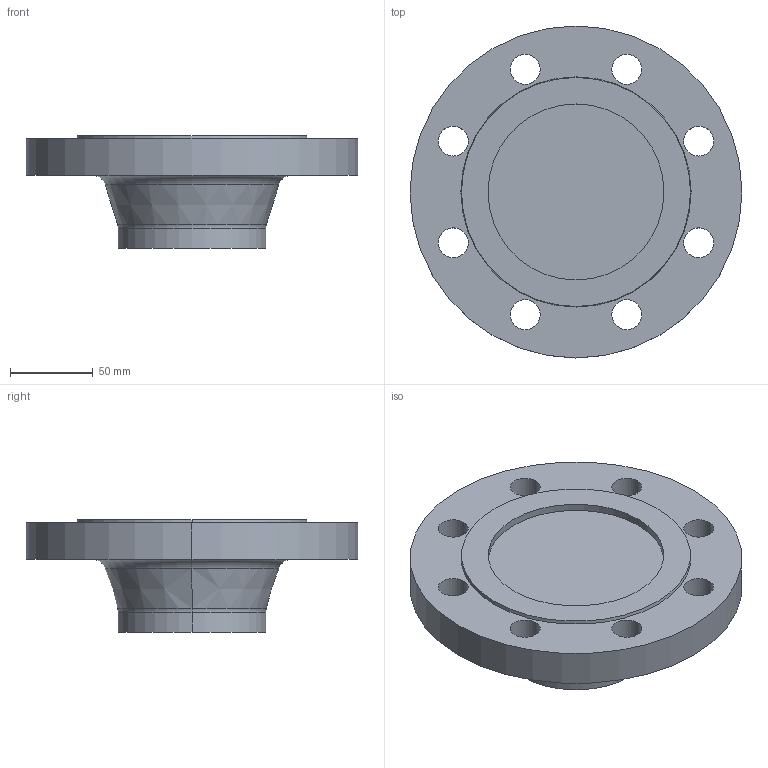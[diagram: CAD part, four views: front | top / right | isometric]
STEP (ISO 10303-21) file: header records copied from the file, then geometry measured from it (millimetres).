
FILE_DESCRIPTION (( 'STEP AP214' ), '1' );
FILE_NAME ('PN40 DN80 Type 21(ii) - Type G Face.STEP', '2019-01-01T17:20:34', ( '' ), ( '' ), 'SwSTEP 2.0', 'SolidWorks 2019', '' );
FILE_SCHEMA (( 'AUTOMOTIVE_DESIGN' ));
Length unit declared in the file: millimetre
Products named in the file (1): PN40 DN80 Type 21(ii) - Type G Face
Bounding box: 200 x 200 x 68 mm (x, y, z)
Volume: 956700.2 mm3; surface area: 94914.2 mm2
Topology: 1 solids, 1 shells, 35 faces, 84 edges, 54 vertices
Faces by surface type: cylinder 22, plane 5, torus 4, cone 4
Entity records: 1114 total; most frequent: DIRECTION 214, CARTESIAN_POINT 174, ORIENTED_EDGE 168, AXIS2_PLACEMENT_3D 94, EDGE_CURVE 84, CIRCLE 58, VERTEX_POINT 54, EDGE_LOOP 54
